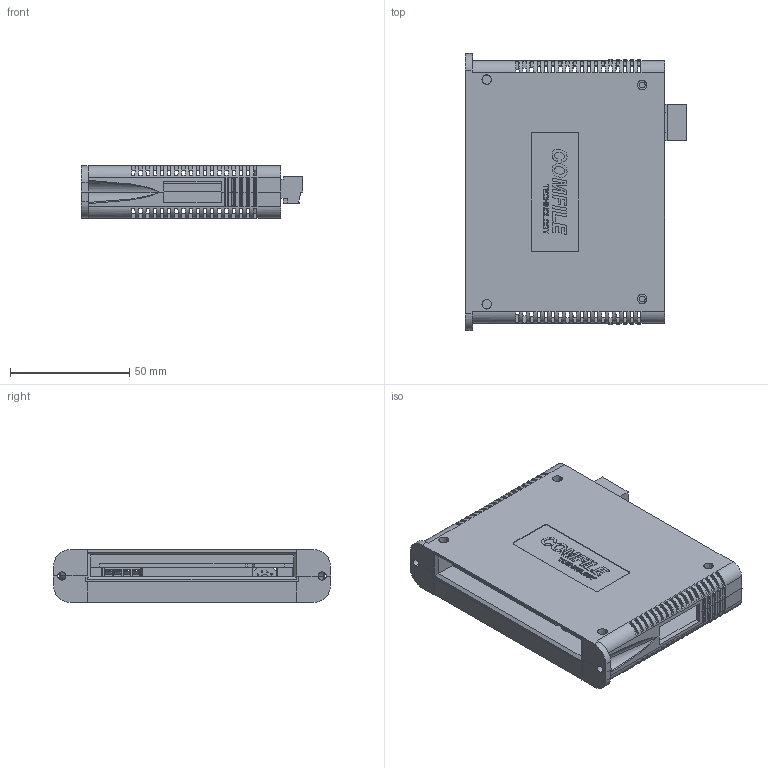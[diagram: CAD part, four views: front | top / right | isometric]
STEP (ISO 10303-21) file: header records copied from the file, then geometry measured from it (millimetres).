
FILE_DESCRIPTION (( 'STEP AP214' ), '1' );
FILE_NAME ('RS-DAOUT2_ASM.STEP', '2016-06-14T04:19:09', ( 'Registered User' ), ( 'Microsoft Corporation' ), 'SwSTEP 2.0', 'SolidWorks 2014', '' );
FILE_SCHEMA (( 'AUTOMOTIVE_DESIGN' ));
Length unit declared in the file: millimetre
Products named in the file (1): RS-DAOUT2_ASM
Bounding box: 92.6 x 116 x 22 mm (x, y, z)
Surface area: 52532.1 mm2 (no closed solid volume)
Topology: 0 solids, 17 shells, 866 faces, 3405 edges, 2397 vertices
Faces by surface type: plane 722, cylinder 119, bspline 15, cone 10
Entity records: 45544 total; most frequent: CARTESIAN_POINT 9800, ORIENTED_EDGE 5253, DIRECTION 4774, EDGE_CURVE 3405, LINE 2724, VECTOR 2724, VERTEX_POINT 2397, AXIS2_PLACEMENT_3D 1025
